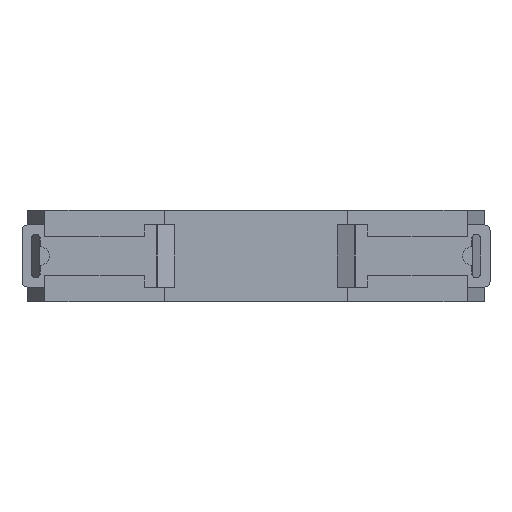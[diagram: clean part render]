
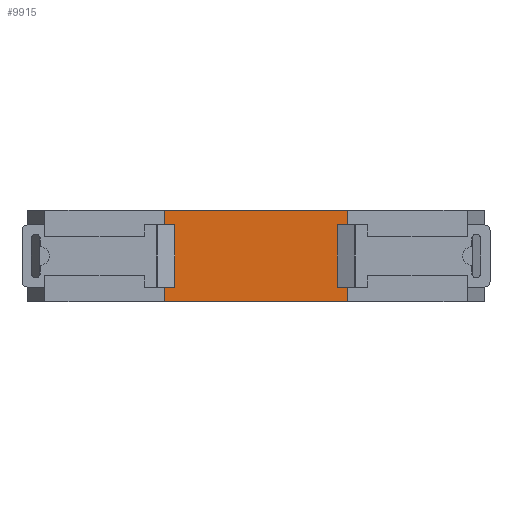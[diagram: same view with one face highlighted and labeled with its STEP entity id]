
A CAD part, left-side view. The second image highlights one B-rep face of the part: STEP entity #9915.
In plain terms, the highlighted planar face has unit normal (-1, 0, 0).
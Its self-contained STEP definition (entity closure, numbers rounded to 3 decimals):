
#178 = DIRECTION ( 'NONE',  ( 0., -1., 0. ) ) ;
#1230 = DIRECTION ( 'NONE',  ( 0., -1., 0. ) ) ;
#1727 = VECTOR ( 'NONE', #5272, 1000. ) ;
#1764 = LINE ( 'NONE', #10190, #7695 ) ;
#1946 = VERTEX_POINT ( 'NONE', #7059 ) ;
#2180 = EDGE_CURVE ( 'NONE', #10429, #1946, #1764, .T. ) ;
#2709 = LINE ( 'NONE', #10775, #8507 ) ;
#2875 = EDGE_LOOP ( 'NONE', ( #7208, #3602, #5928, #9530 ) ) ;
#3364 = LINE ( 'NONE', #8467, #9854 ) ;
#3602 = ORIENTED_EDGE ( 'NONE', *, *, #8754, .F. ) ;
#4152 = CARTESIAN_POINT ( 'NONE',  ( -60., -4.25, 18. ) ) ;
#4192 = DIRECTION ( 'NONE',  ( 0., 1., 0. ) ) ;
#5039 = DIRECTION ( 'NONE',  ( 1., 0., 0. ) ) ;
#5075 = PLANE ( 'NONE',  #10580 ) ;
#5272 = DIRECTION ( 'NONE',  ( 0., 0., -1. ) ) ;
#5322 = CARTESIAN_POINT ( 'NONE',  ( -60., -4.25, 18. ) ) ;
#5359 = VERTEX_POINT ( 'NONE', #7005 ) ;
#5670 = FACE_OUTER_BOUND ( 'NONE', #2875, .T. ) ;
#5928 = ORIENTED_EDGE ( 'NONE', *, *, #2180, .F. ) ;
#5935 = CARTESIAN_POINT ( 'NONE',  ( -60., -4.25, 18. ) ) ;
#6094 = CARTESIAN_POINT ( 'NONE',  ( -60., -40.25, 0. ) ) ;
#7005 = CARTESIAN_POINT ( 'NONE',  ( -60., -4.25, 0. ) ) ;
#7059 = CARTESIAN_POINT ( 'NONE',  ( -60., -40.25, 18. ) ) ;
#7208 = ORIENTED_EDGE ( 'NONE', *, *, #7398, .T. ) ;
#7398 = EDGE_CURVE ( 'NONE', #5359, #8334, #2709, .T. ) ;
#7413 = DIRECTION ( 'NONE',  ( 0., 0., -1. ) ) ;
#7695 = VECTOR ( 'NONE', #1230, 1000. ) ;
#7887 = EDGE_CURVE ( 'NONE', #10429, #5359, #10702, .T. ) ;
#8334 = VERTEX_POINT ( 'NONE', #6094 ) ;
#8467 = CARTESIAN_POINT ( 'NONE',  ( -60., -40.25, 18. ) ) ;
#8507 = VECTOR ( 'NONE', #178, 1000. ) ;
#8754 = EDGE_CURVE ( 'NONE', #1946, #8334, #3364, .T. ) ;
#9530 = ORIENTED_EDGE ( 'NONE', *, *, #7887, .T. ) ;
#9854 = VECTOR ( 'NONE', #7413, 1000. ) ;
#9915 = ADVANCED_FACE ( 'NONE', ( #5670 ), #5075, .F. ) ;
#10190 = CARTESIAN_POINT ( 'NONE',  ( -60., -4.25, 18. ) ) ;
#10429 = VERTEX_POINT ( 'NONE', #5935 ) ;
#10580 = AXIS2_PLACEMENT_3D ( 'NONE', #4152, #5039, #4192 ) ;
#10702 = LINE ( 'NONE', #5322, #1727 ) ;
#10775 = CARTESIAN_POINT ( 'NONE',  ( -60., -4.25, 0. ) ) ;
